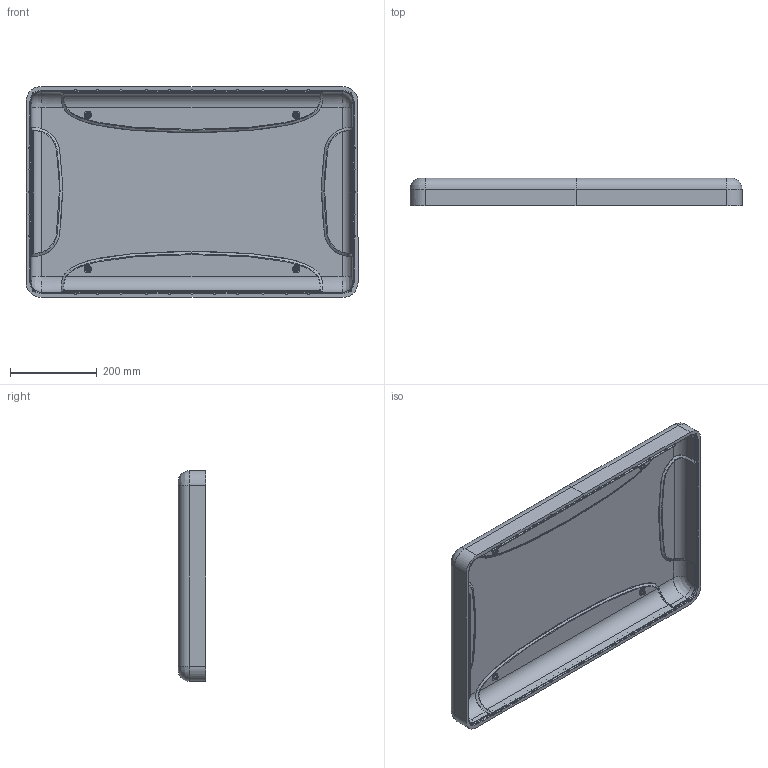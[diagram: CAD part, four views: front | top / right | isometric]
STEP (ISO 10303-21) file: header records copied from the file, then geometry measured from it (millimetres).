
FILE_DESCRIPTION (( 'STEP AP203' ), '1' );
FILE_NAME ('963_Top_INNER_SURFACE.STEP', '2019-07-23T15:02:24', ( '' ), ( '' ), 'SwSTEP 2.0', 'SolidWorks 2018', '' );
FILE_SCHEMA (( 'CONFIG_CONTROL_DESIGN' ));
Products named in the file (1): 963_Top_INNER_SURFACE
Bounding box: 766.04 x 63.5 x 486.64 mm (x, y, z)
Volume: 6312170.9 mm3; surface area: 988766.6 mm2
Topology: 1 solids, 1 shells, 1156 faces, 2938 edges, 1900 vertices
Faces by surface type: plane 466, bspline 368, cylinder 194, cone 96, torus 32
Entity records: 85137 total; most frequent: CARTESIAN_POINT 60503, ORIENTED_EDGE 5876, DIRECTION 3922, EDGE_CURVE 2938, VERTEX_POINT 1900, AXIS2_PLACEMENT_3D 1337, EDGE_LOOP 1272, VECTOR 1248
